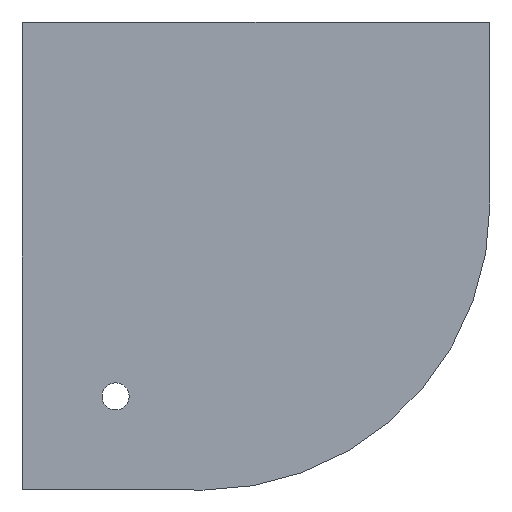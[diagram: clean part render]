
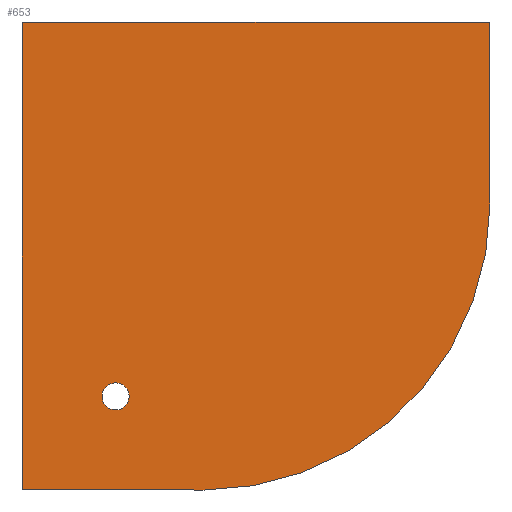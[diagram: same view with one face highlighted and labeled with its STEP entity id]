
A CAD part, front view. The second image highlights one B-rep face of the part: STEP entity #653.
In plain terms, the highlighted planar face has unit normal (0, -1, 0).
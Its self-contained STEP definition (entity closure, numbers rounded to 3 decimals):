
#29=FACE_BOUND('',#221,.T.);
#33=PLANE('',#959);
#82=LINE('',#1475,#128);
#86=LINE('',#1488,#132);
#87=LINE('',#1490,#133);
#88=LINE('',#1492,#134);
#128=VECTOR('',#1144,10.);
#132=VECTOR('',#1160,10.);
#133=VECTOR('',#1161,10.);
#134=VECTOR('',#1164,10.);
#171=FACE_OUTER_BOUND('',#220,.T.);
#220=EDGE_LOOP('',(#503,#504,#505,#506,#507,#508,#509,#510));
#221=EDGE_LOOP('',(#511));
#258=VERTEX_POINT('',#1386);
#269=VERTEX_POINT('',#1413);
#270=VERTEX_POINT('',#1414);
#276=VERTEX_POINT('',#1432);
#277=VERTEX_POINT('',#1433);
#292=VERTEX_POINT('',#1474);
#293=VERTEX_POINT('',#1478);
#294=VERTEX_POINT('',#1479);
#296=VERTEX_POINT('',#1489);
#323=EDGE_CURVE('',#258,#258,#725,.T.);
#335=EDGE_CURVE('',#269,#270,#730,.T.);
#344=EDGE_CURVE('',#276,#277,#735,.T.);
#365=EDGE_CURVE('',#292,#277,#82,.T.);
#367=EDGE_CURVE('',#293,#294,#742,.T.);
#372=EDGE_CURVE('',#269,#294,#86,.T.);
#373=EDGE_CURVE('',#293,#296,#87,.T.);
#374=EDGE_CURVE('',#292,#296,#745,.T.);
#375=EDGE_CURVE('',#276,#270,#88,.T.);
#503=ORIENTED_EDGE('',*,*,#335,.F.);
#504=ORIENTED_EDGE('',*,*,#372,.T.);
#505=ORIENTED_EDGE('',*,*,#367,.F.);
#506=ORIENTED_EDGE('',*,*,#373,.T.);
#507=ORIENTED_EDGE('',*,*,#374,.F.);
#508=ORIENTED_EDGE('',*,*,#365,.T.);
#509=ORIENTED_EDGE('',*,*,#344,.F.);
#510=ORIENTED_EDGE('',*,*,#375,.T.);
#511=ORIENTED_EDGE('',*,*,#323,.T.);
#653=ADVANCED_FACE('',(#171,#29),#33,.F.);
#725=CIRCLE('',#920,26.);
#730=CIRCLE('',#931,5.);
#735=CIRCLE('',#939,5.);
#742=CIRCLE('',#955,5.);
#745=CIRCLE('',#960,550.);
#920=AXIS2_PLACEMENT_3D('',#1388,#1057,#1058);
#931=AXIS2_PLACEMENT_3D('',#1415,#1083,#1084);
#939=AXIS2_PLACEMENT_3D('',#1434,#1103,#1104);
#955=AXIS2_PLACEMENT_3D('',#1480,#1148,#1149);
#959=AXIS2_PLACEMENT_3D('',#1487,#1158,#1159);
#960=AXIS2_PLACEMENT_3D('',#1491,#1162,#1163);
#1057=DIRECTION('center_axis',(0.,1.,0.));
#1058=DIRECTION('ref_axis',(-1.,0.,0.));
#1083=DIRECTION('center_axis',(0.,1.,0.));
#1084=DIRECTION('ref_axis',(-0.707,0.,0.707));
#1103=DIRECTION('center_axis',(0.,1.,0.));
#1104=DIRECTION('ref_axis',(0.707,0.,0.707));
#1144=DIRECTION('',(0.,0.,1.));
#1148=DIRECTION('center_axis',(0.,1.,0.));
#1149=DIRECTION('ref_axis',(-0.707,0.,-0.707));
#1158=DIRECTION('center_axis',(0.,1.,0.));
#1159=DIRECTION('ref_axis',(0.,0.,-1.));
#1160=DIRECTION('',(0.,0.,-1.));
#1161=DIRECTION('',(1.,0.,0.));
#1162=DIRECTION('center_axis',(0.,1.,0.));
#1163=DIRECTION('ref_axis',(1.,0.,0.));
#1164=DIRECTION('',(-1.,0.,0.));
#1386=CARTESIAN_POINT('',(-294.,0.,-520.));
#1388=CARTESIAN_POINT('Origin',(-320.,0.,-520.));
#1413=CARTESIAN_POINT('',(-500.,0.,195.));
#1414=CARTESIAN_POINT('',(-495.,0.,200.));
#1415=CARTESIAN_POINT('Origin',(-495.,0.,195.));
#1432=CARTESIAN_POINT('',(395.,0.,200.));
#1433=CARTESIAN_POINT('',(400.,0.,195.));
#1434=CARTESIAN_POINT('Origin',(395.,0.,195.));
#1474=CARTESIAN_POINT('',(400.,0.,-150.));
#1475=CARTESIAN_POINT('',(400.,0.,-150.));
#1478=CARTESIAN_POINT('',(-495.,0.,-700.));
#1479=CARTESIAN_POINT('',(-500.,0.,-695.));
#1480=CARTESIAN_POINT('Origin',(-495.,0.,-695.));
#1487=CARTESIAN_POINT('Origin',(0.,0.,-300.));
#1488=CARTESIAN_POINT('',(-500.,0.,-500.));
#1489=CARTESIAN_POINT('',(-150.,0.,-700.));
#1490=CARTESIAN_POINT('',(-400.,0.,-700.));
#1491=CARTESIAN_POINT('Origin',(-150.,0.,-150.));
#1492=CARTESIAN_POINT('',(-200.,0.,200.));
